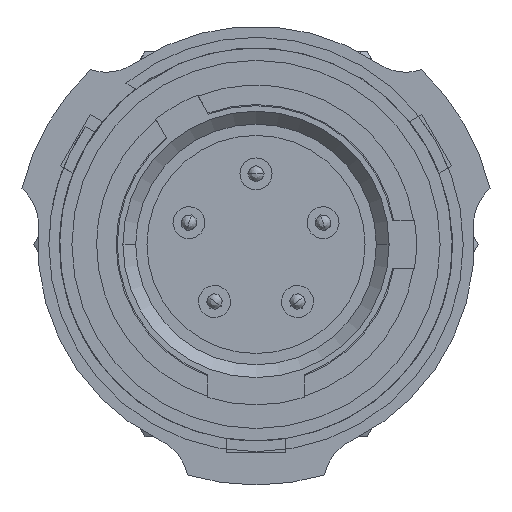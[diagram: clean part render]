
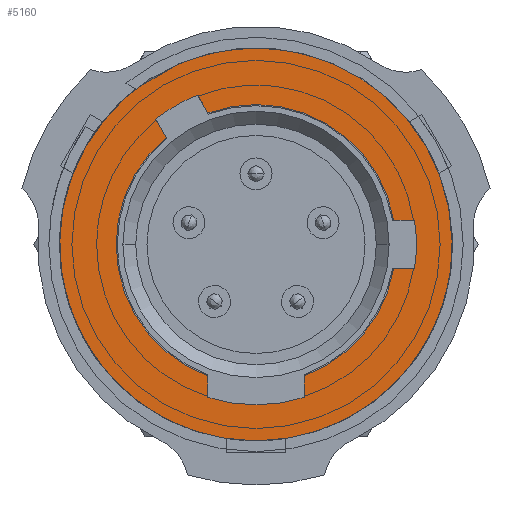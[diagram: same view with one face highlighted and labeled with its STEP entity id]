
A CAD part, left-side view. The second image highlights one B-rep face of the part: STEP entity #5160.
In plain terms, the highlighted planar face has unit normal (-1, 0, 0).
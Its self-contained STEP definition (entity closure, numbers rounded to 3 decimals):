
#4810=AXIS2_PLACEMENT_3D('Circle Axis2P3D',#4808,#4809,$) ;
#5043=AXIS2_PLACEMENT_3D('Plane Axis2P3D',#5040,#5041,#5042) ;
#5047=AXIS2_PLACEMENT_3D('Circle Axis2P3D',#5045,#5046,$) ;
#5056=AXIS2_PLACEMENT_3D('Circle Axis2P3D',#5054,#5055,$) ;
#5072=AXIS2_PLACEMENT_3D('Circle Axis2P3D',#5070,#5071,$) ;
#5086=AXIS2_PLACEMENT_3D('Circle Axis2P3D',#5084,#5085,$) ;
#5100=AXIS2_PLACEMENT_3D('Circle Axis2P3D',#5098,#5099,$) ;
#5114=AXIS2_PLACEMENT_3D('Circle Axis2P3D',#5112,#5113,$) ;
#5128=AXIS2_PLACEMENT_3D('Circle Axis2P3D',#5126,#5127,$) ;
#5142=AXIS2_PLACEMENT_3D('Circle Axis2P3D',#5140,#5141,$) ;
#4808=CARTESIAN_POINT('Axis2P3D Location',(-492.894,0.,0.)) ;
#4812=CARTESIAN_POINT('Vertex',(-492.894,6.125,0.)) ;
#4814=CARTESIAN_POINT('Vertex',(-492.894,-6.125,0.)) ;
#5040=CARTESIAN_POINT('Axis2P3D Location',(-492.894,0.,0.)) ;
#5045=CARTESIAN_POINT('Axis2P3D Location',(-492.894,0.,0.)) ;
#5054=CARTESIAN_POINT('Axis2P3D Location',(-492.894,0.,0.)) ;
#5058=CARTESIAN_POINT('Vertex',(-492.894,4.36,0.)) ;
#5060=CARTESIAN_POINT('Vertex',(-492.894,2.797,3.345)) ;
#5063=CARTESIAN_POINT('Line Origine',(-492.894,2.959,3.625)) ;
#5067=CARTESIAN_POINT('Vertex',(-492.894,3.121,3.906)) ;
#5070=CARTESIAN_POINT('Axis2P3D Location',(-492.894,0.,0.)) ;
#5074=CARTESIAN_POINT('Vertex',(-492.894,1.822,4.656)) ;
#5077=CARTESIAN_POINT('Line Origine',(-492.894,1.66,4.375)) ;
#5081=CARTESIAN_POINT('Vertex',(-492.894,1.498,4.095)) ;
#5084=CARTESIAN_POINT('Axis2P3D Location',(-492.894,0.,0.)) ;
#5088=CARTESIAN_POINT('Vertex',(-492.894,-4.295,0.75)) ;
#5091=CARTESIAN_POINT('Line Origine',(-492.894,-4.619,0.75)) ;
#5095=CARTESIAN_POINT('Vertex',(-492.894,-4.943,0.75)) ;
#5098=CARTESIAN_POINT('Axis2P3D Location',(-492.894,0.,0.)) ;
#5102=CARTESIAN_POINT('Vertex',(-492.894,-4.943,-0.75)) ;
#5105=CARTESIAN_POINT('Line Origine',(-492.894,-4.619,-0.75)) ;
#5109=CARTESIAN_POINT('Vertex',(-492.894,-4.295,-0.75)) ;
#5112=CARTESIAN_POINT('Axis2P3D Location',(-492.894,0.,0.)) ;
#5116=CARTESIAN_POINT('Vertex',(-492.894,-1.5,-4.094)) ;
#5119=CARTESIAN_POINT('Line Origine',(-492.894,-1.5,-4.432)) ;
#5123=CARTESIAN_POINT('Vertex',(-492.894,-1.5,-4.77)) ;
#5126=CARTESIAN_POINT('Axis2P3D Location',(-492.894,0.,0.)) ;
#5130=CARTESIAN_POINT('Vertex',(-492.894,1.5,-4.77)) ;
#5133=CARTESIAN_POINT('Line Origine',(-492.894,1.5,-4.432)) ;
#5137=CARTESIAN_POINT('Vertex',(-492.894,1.5,-4.094)) ;
#5140=CARTESIAN_POINT('Axis2P3D Location',(-492.894,0.,0.)) ;
#4809=DIRECTION('Axis2P3D Direction',(-1.,0.,0.)) ;
#5041=DIRECTION('Axis2P3D Direction',(1.,0.,0.)) ;
#5042=DIRECTION('Axis2P3D XDirection',(0.,-1.,0.)) ;
#5046=DIRECTION('Axis2P3D Direction',(1.,0.,0.)) ;
#5055=DIRECTION('Axis2P3D Direction',(1.,0.,0.)) ;
#5064=DIRECTION('Vector Direction',(0.,0.5,0.866)) ;
#5071=DIRECTION('Axis2P3D Direction',(1.,0.,0.)) ;
#5078=DIRECTION('Vector Direction',(0.,0.5,0.866)) ;
#5085=DIRECTION('Axis2P3D Direction',(1.,0.,0.)) ;
#5092=DIRECTION('Vector Direction',(0.,-1.,0.)) ;
#5099=DIRECTION('Axis2P3D Direction',(1.,0.,0.)) ;
#5106=DIRECTION('Vector Direction',(0.,1.,0.)) ;
#5113=DIRECTION('Axis2P3D Direction',(1.,0.,0.)) ;
#5120=DIRECTION('Vector Direction',(0.,0.,1.)) ;
#5127=DIRECTION('Axis2P3D Direction',(1.,0.,0.)) ;
#5134=DIRECTION('Vector Direction',(0.,0.,1.)) ;
#5141=DIRECTION('Axis2P3D Direction',(1.,0.,0.)) ;
#5065=VECTOR('Line Direction',#5064,1.) ;
#5079=VECTOR('Line Direction',#5078,1.) ;
#5093=VECTOR('Line Direction',#5092,1.) ;
#5107=VECTOR('Line Direction',#5106,1.) ;
#5121=VECTOR('Line Direction',#5120,1.) ;
#5135=VECTOR('Line Direction',#5134,1.) ;
#5051=ORIENTED_EDGE('',*,*,#4816,.F.) ;
#5052=ORIENTED_EDGE('',*,*,#5049,.F.) ;
#5146=ORIENTED_EDGE('',*,*,#5062,.T.) ;
#5147=ORIENTED_EDGE('',*,*,#5069,.T.) ;
#5148=ORIENTED_EDGE('',*,*,#5076,.T.) ;
#5149=ORIENTED_EDGE('',*,*,#5083,.F.) ;
#5150=ORIENTED_EDGE('',*,*,#5090,.T.) ;
#5151=ORIENTED_EDGE('',*,*,#5097,.T.) ;
#5152=ORIENTED_EDGE('',*,*,#5104,.T.) ;
#5153=ORIENTED_EDGE('',*,*,#5111,.T.) ;
#5154=ORIENTED_EDGE('',*,*,#5118,.T.) ;
#5155=ORIENTED_EDGE('',*,*,#5125,.F.) ;
#5156=ORIENTED_EDGE('',*,*,#5132,.T.) ;
#5157=ORIENTED_EDGE('',*,*,#5139,.T.) ;
#5158=ORIENTED_EDGE('',*,*,#5144,.T.) ;
#5159=FACE_BOUND('',#5145,.T.) ;
#5160=ADVANCED_FACE('PartBody',(#5053,#5159),#5044,.F.) ;
#4811=CIRCLE('generated circle',#4810,6.125) ;
#5048=CIRCLE('generated circle',#5047,6.125) ;
#5057=CIRCLE('generated circle',#5056,4.36) ;
#5073=CIRCLE('generated circle',#5072,5.) ;
#5087=CIRCLE('generated circle',#5086,4.36) ;
#5101=CIRCLE('generated circle',#5100,5.) ;
#5115=CIRCLE('generated circle',#5114,4.36) ;
#5129=CIRCLE('generated circle',#5128,5.) ;
#5143=CIRCLE('generated circle',#5142,4.36) ;
#4816=EDGE_CURVE('',#4813,#4815,#4811,.F.) ;
#5049=EDGE_CURVE('',#4815,#4813,#5048,.T.) ;
#5062=EDGE_CURVE('',#5059,#5061,#5057,.T.) ;
#5069=EDGE_CURVE('',#5061,#5068,#5066,.T.) ;
#5076=EDGE_CURVE('',#5068,#5075,#5073,.T.) ;
#5083=EDGE_CURVE('',#5082,#5075,#5080,.T.) ;
#5090=EDGE_CURVE('',#5082,#5089,#5087,.T.) ;
#5097=EDGE_CURVE('',#5089,#5096,#5094,.T.) ;
#5104=EDGE_CURVE('',#5096,#5103,#5101,.T.) ;
#5111=EDGE_CURVE('',#5103,#5110,#5108,.T.) ;
#5118=EDGE_CURVE('',#5110,#5117,#5115,.T.) ;
#5125=EDGE_CURVE('',#5124,#5117,#5122,.T.) ;
#5132=EDGE_CURVE('',#5124,#5131,#5129,.T.) ;
#5139=EDGE_CURVE('',#5131,#5138,#5136,.T.) ;
#5144=EDGE_CURVE('',#5138,#5059,#5143,.T.) ;
#5050=EDGE_LOOP('',(#5051,#5052)) ;
#5145=EDGE_LOOP('',(#5146,#5147,#5148,#5149,#5150,#5151,#5152,#5153,#5154,#5155,#5156,#5157,#5158)) ;
#5053=FACE_OUTER_BOUND('',#5050,.T.) ;
#5066=LINE('Line',#5063,#5065) ;
#5080=LINE('Line',#5077,#5079) ;
#5094=LINE('Line',#5091,#5093) ;
#5108=LINE('Line',#5105,#5107) ;
#5122=LINE('Line',#5119,#5121) ;
#5136=LINE('Line',#5133,#5135) ;
#5044=PLANE('Plane',#5043) ;
#4813=VERTEX_POINT('',#4812) ;
#4815=VERTEX_POINT('',#4814) ;
#5059=VERTEX_POINT('',#5058) ;
#5061=VERTEX_POINT('',#5060) ;
#5068=VERTEX_POINT('',#5067) ;
#5075=VERTEX_POINT('',#5074) ;
#5082=VERTEX_POINT('',#5081) ;
#5089=VERTEX_POINT('',#5088) ;
#5096=VERTEX_POINT('',#5095) ;
#5103=VERTEX_POINT('',#5102) ;
#5110=VERTEX_POINT('',#5109) ;
#5117=VERTEX_POINT('',#5116) ;
#5124=VERTEX_POINT('',#5123) ;
#5131=VERTEX_POINT('',#5130) ;
#5138=VERTEX_POINT('',#5137) ;
